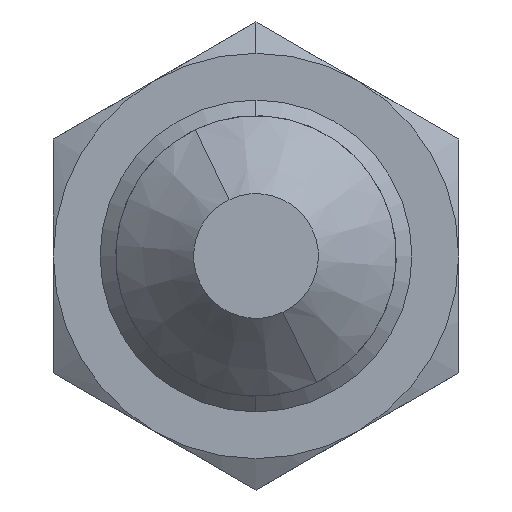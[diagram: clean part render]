
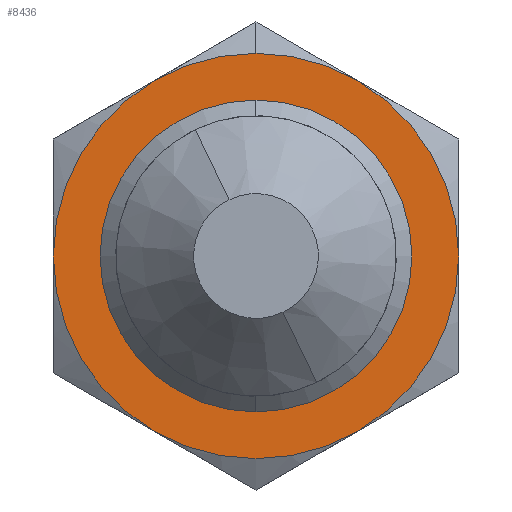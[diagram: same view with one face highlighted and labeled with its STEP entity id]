
A CAD part, left-side view. The second image highlights one B-rep face of the part: STEP entity #8436.
In plain terms, the highlighted planar face has unit normal (-1, 0, 0) as drawn and (0, 0, -1) by its records, which use the part's own axes.
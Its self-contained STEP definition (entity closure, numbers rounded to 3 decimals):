
#2142 = DIRECTION ( 'NONE',  ( 1., 0., 0. ) ) ;
#2230 = CIRCLE ( 'NONE', #2366, 10. ) ;
#2360 = DIRECTION ( 'NONE',  ( 0., 0., 1. ) ) ;
#2361 = CARTESIAN_POINT ( 'NONE',  ( 0., 0., -3.5 ) ) ;
#2366 = AXIS2_PLACEMENT_3D ( 'NONE', #2361, #2360, #2142 ) ;
#2563 = CARTESIAN_POINT ( 'NONE',  ( 11.258, 6.5, -3.5 ) ) ;
#2717 = FACE_OUTER_BOUND ( 'NONE', #8439, .T. ) ;
#2718 = FACE_BOUND ( 'NONE', #8437, .T. ) ;
#2758 = CARTESIAN_POINT ( 'NONE',  ( -11.258, -6.5, -3.5 ) ) ;
#2771 = CARTESIAN_POINT ( 'NONE',  ( 11.258, -6.5, -3.5 ) ) ;
#2788 = CARTESIAN_POINT ( 'NONE',  ( -10., 0., -3.5 ) ) ;
#2829 = DIRECTION ( 'NONE',  ( 1., 0., 0. ) ) ;
#2830 = DIRECTION ( 'NONE',  ( 0., 0., 1. ) ) ;
#2831 = CARTESIAN_POINT ( 'NONE',  ( 0., 0., -3.5 ) ) ;
#2832 = AXIS2_PLACEMENT_3D ( 'NONE', #2831, #2830, #2829 ) ;
#2833 = CIRCLE ( 'NONE', #2832, 13. ) ;
#2844 = CARTESIAN_POINT ( 'NONE',  ( 10., 0., -3.5 ) ) ;
#2868 = DIRECTION ( 'NONE',  ( 0., 0., 1. ) ) ;
#2869 = AXIS2_PLACEMENT_3D ( 'NONE', #2933, #2868, #2870 ) ;
#2870 = DIRECTION ( 'NONE',  ( 1., 0., 0. ) ) ;
#2891 = CARTESIAN_POINT ( 'NONE',  ( 0., -13., -3.5 ) ) ;
#2932 = PLANE ( 'NONE',  #2869 ) ;
#2933 = CARTESIAN_POINT ( 'NONE',  ( 7.506, 13., -3.5 ) ) ;
#2942 = CIRCLE ( 'NONE', #2943, 10. ) ;
#2943 = AXIS2_PLACEMENT_3D ( 'NONE', #2952, #2951, #2954 ) ;
#2951 = DIRECTION ( 'NONE',  ( 0., 0., 1. ) ) ;
#2952 = CARTESIAN_POINT ( 'NONE',  ( 0., 0., -3.5 ) ) ;
#2954 = DIRECTION ( 'NONE',  ( 1., 0., 0. ) ) ;
#2983 = CIRCLE ( 'NONE', #2986, 13. ) ;
#2984 = DIRECTION ( 'NONE',  ( 1., 0., 0. ) ) ;
#2985 = DIRECTION ( 'NONE',  ( 0., 0., 1. ) ) ;
#2986 = AXIS2_PLACEMENT_3D ( 'NONE', #2993, #2985, #2984 ) ;
#2987 = CARTESIAN_POINT ( 'NONE',  ( 0., 0., -3.5 ) ) ;
#2988 = DIRECTION ( 'NONE',  ( 1., 0., 0. ) ) ;
#2989 = DIRECTION ( 'NONE',  ( 0., 0., 1. ) ) ;
#2990 = AXIS2_PLACEMENT_3D ( 'NONE', #2987, #2989, #2988 ) ;
#2991 = CIRCLE ( 'NONE', #2990, 13. ) ;
#2993 = CARTESIAN_POINT ( 'NONE',  ( 0., 0., -3.5 ) ) ;
#3070 = EDGE_CURVE ( 'NONE', #3077, #9396, #8583, .T. ) ;
#3077 = VERTEX_POINT ( 'NONE', #8577 ) ;
#4363 = CARTESIAN_POINT ( 'NONE',  ( 0., 13., -3.5 ) ) ;
#4466 = AXIS2_PLACEMENT_3D ( 'NONE', #4485, #4484, #4483 ) ;
#4467 = CIRCLE ( 'NONE', #4466, 13. ) ;
#4471 = AXIS2_PLACEMENT_3D ( 'NONE', #4495, #4488, #4487 ) ;
#4480 = DIRECTION ( 'NONE',  ( 0., 0., 1. ) ) ;
#4481 = CARTESIAN_POINT ( 'NONE',  ( 0., 0., -3.5 ) ) ;
#4482 = AXIS2_PLACEMENT_3D ( 'NONE', #4481, #4480, #4504 ) ;
#4483 = DIRECTION ( 'NONE',  ( 1., 0., 0. ) ) ;
#4484 = DIRECTION ( 'NONE',  ( 0., 0., 1. ) ) ;
#4485 = CARTESIAN_POINT ( 'NONE',  ( 0., 0., -3.5 ) ) ;
#4487 = DIRECTION ( 'NONE',  ( 1., 0., 0. ) ) ;
#4488 = DIRECTION ( 'NONE',  ( 0., 0., 1. ) ) ;
#4495 = CARTESIAN_POINT ( 'NONE',  ( 0., 0., -3.5 ) ) ;
#4497 = CIRCLE ( 'NONE', #4471, 13. ) ;
#4498 = CIRCLE ( 'NONE', #4482, 13. ) ;
#4504 = DIRECTION ( 'NONE',  ( 1., 0., 0. ) ) ;
#4649 = CARTESIAN_POINT ( 'NONE',  ( -13., 0., -3.5 ) ) ;
#8362 = VERTEX_POINT ( 'NONE', #2563 ) ;
#8366 = EDGE_CURVE ( 'NONE', #8367, #8372, #2230, .T. ) ;
#8367 = VERTEX_POINT ( 'NONE', #2788 ) ;
#8372 = VERTEX_POINT ( 'NONE', #2844 ) ;
#8401 = EDGE_CURVE ( 'NONE', #8536, #3077, #2833, .T. ) ;
#8415 = VERTEX_POINT ( 'NONE', #2771 ) ;
#8421 = VERTEX_POINT ( 'NONE', #2758 ) ;
#8436 = ADVANCED_FACE ( 'NONE', ( #2718, #2717 ), #2932, .F. ) ;
#8437 = EDGE_LOOP ( 'NONE', ( #8438, #8493 ) ) ;
#8438 = ORIENTED_EDGE ( 'NONE', *, *, #8366, .T. ) ;
#8439 = EDGE_LOOP ( 'NONE', ( #8495, #8497, #8608, #8735, #8733, #8609, #8675 ) ) ;
#8440 = VERTEX_POINT ( 'NONE', #2891 ) ;
#8493 = ORIENTED_EDGE ( 'NONE', *, *, #8494, .T. ) ;
#8494 = EDGE_CURVE ( 'NONE', #8372, #8367, #2942, .T. ) ;
#8495 = ORIENTED_EDGE ( 'NONE', *, *, #8496, .F. ) ;
#8496 = EDGE_CURVE ( 'NONE', #8362, #8536, #2983, .T. ) ;
#8497 = ORIENTED_EDGE ( 'NONE', *, *, #8498, .F. ) ;
#8498 = EDGE_CURVE ( 'NONE', #8415, #8362, #2991, .T. ) ;
#8536 = VERTEX_POINT ( 'NONE', #4363 ) ;
#8577 = CARTESIAN_POINT ( 'NONE',  ( -11.258, 6.5, -3.5 ) ) ;
#8579 = DIRECTION ( 'NONE',  ( 1., 0., 0. ) ) ;
#8580 = DIRECTION ( 'NONE',  ( 0., 0., 1. ) ) ;
#8581 = CARTESIAN_POINT ( 'NONE',  ( 0., 0., -3.5 ) ) ;
#8582 = AXIS2_PLACEMENT_3D ( 'NONE', #8581, #8580, #8579 ) ;
#8583 = CIRCLE ( 'NONE', #8582, 13. ) ;
#8608 = ORIENTED_EDGE ( 'NONE', *, *, #8738, .F. ) ;
#8609 = ORIENTED_EDGE ( 'NONE', *, *, #3070, .F. ) ;
#8675 = ORIENTED_EDGE ( 'NONE', *, *, #8401, .F. ) ;
#8733 = ORIENTED_EDGE ( 'NONE', *, *, #8734, .F. ) ;
#8734 = EDGE_CURVE ( 'NONE', #9396, #8421, #4497, .T. ) ;
#8735 = ORIENTED_EDGE ( 'NONE', *, *, #8736, .F. ) ;
#8736 = EDGE_CURVE ( 'NONE', #8421, #8440, #4498, .T. ) ;
#8738 = EDGE_CURVE ( 'NONE', #8440, #8415, #4467, .T. ) ;
#9396 = VERTEX_POINT ( 'NONE', #4649 ) ;
